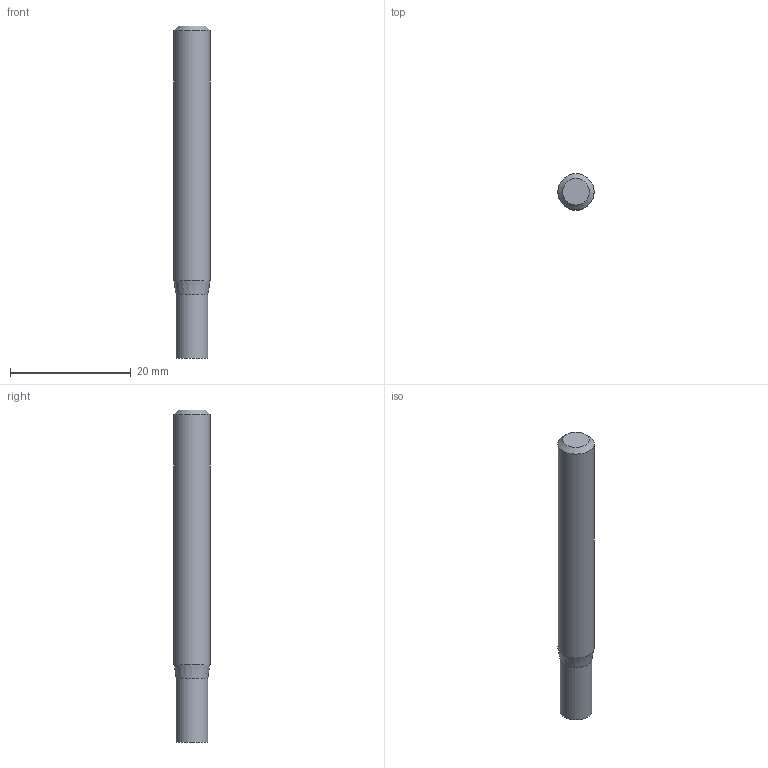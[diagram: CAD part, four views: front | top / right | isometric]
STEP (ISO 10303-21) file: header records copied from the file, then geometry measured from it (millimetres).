
FILE_DESCRIPTION((''),'2;1');
FILE_NAME('C:\Users\nsx150\AppData\Local\Temp\Mastercam 2021\98T1Q6BTT1\TEMP.step','2021-10-21T14:48:51',(''),(''),'STEP Write','Mastercam 2021 ... CNC Software, Inc.','');
FILE_SCHEMA(('AUTOMOTIVE_DESIGN'));
Length unit declared in the file: millimetre
Products named in the file (1): None
Bounding box: 6 x 6 x 55 mm (x, y, z)
Volume: 1476.7 mm3; surface area: 1096.3 mm2
Topology: 2 solids, 2 shells, 8 faces, 10 edges, 6 vertices
Faces by surface type: plane 4, cylinder 2, cone 2
Full cylindrical faces by diameter (mm): 5.3 x1, 6 x1
Entity records: 190 total; most frequent: DIRECTION 32, CARTESIAN_POINT 22, AXIS2_PLACEMENT_3D 16, ORIENTED_EDGE 12, EDGE_LOOP 12, STYLED_ITEM 11, ADVANCED_FACE 8, VERTEX_POINT 6
